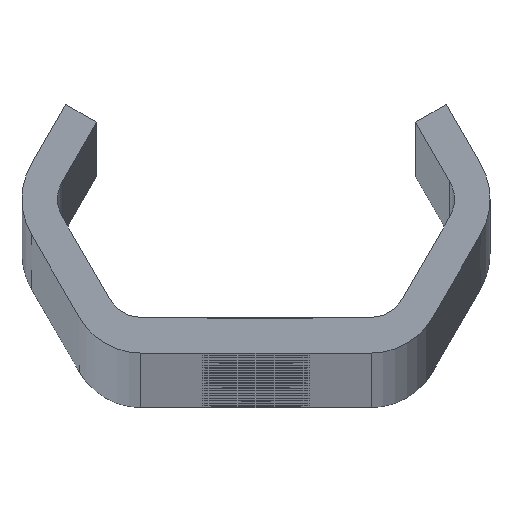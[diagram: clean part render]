
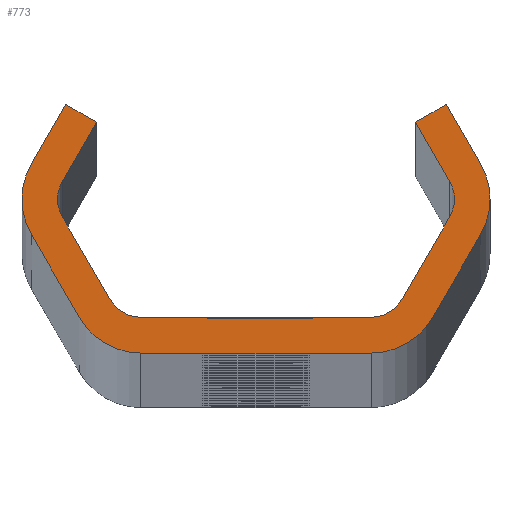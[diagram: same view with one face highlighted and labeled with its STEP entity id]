
A CAD part, top view. The second image highlights one B-rep face of the part: STEP entity #773.
In plain terms, the highlighted planar face has unit normal (0, 0, 1).
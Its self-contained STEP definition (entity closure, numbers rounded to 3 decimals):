
#773=ADVANCED_FACE('NONE',(#2155),#2156,.F.);
#2155=FACE_OUTER_BOUND('',#6992,.T.);
#2156=PLANE('',#6993);
#6992=EDGE_LOOP('',(#14294,#14295,#14296,#14297,#14298,#14299,#14300,#14301,#14302,#14303,#14304,#14305,#14306,#14307,#14308,#14309,#14310,#14311,#14312,#14313,#14314,#14315,#14316,#14317,#14318,#14319,#14320,#14321));
#6993=AXIS2_PLACEMENT_3D('',#14322,#14323,#14324);
#14294=ORIENTED_EDGE('',*,*,#19118,.F.);
#14295=ORIENTED_EDGE('',*,*,#19119,.T.);
#14296=ORIENTED_EDGE('',*,*,#18704,.T.);
#14297=ORIENTED_EDGE('',*,*,#19120,.T.);
#14298=ORIENTED_EDGE('',*,*,#19061,.T.);
#14299=ORIENTED_EDGE('',*,*,#19121,.T.);
#14300=ORIENTED_EDGE('',*,*,#18331,.T.);
#14301=ORIENTED_EDGE('',*,*,#19064,.T.);
#14302=ORIENTED_EDGE('',*,*,#19070,.T.);
#14303=ORIENTED_EDGE('',*,*,#19074,.T.);
#14304=ORIENTED_EDGE('',*,*,#19122,.T.);
#14305=ORIENTED_EDGE('',*,*,#18678,.T.);
#14306=ORIENTED_EDGE('',*,*,#19076,.T.);
#14307=ORIENTED_EDGE('',*,*,#19123,.T.);
#14308=ORIENTED_EDGE('',*,*,#19080,.T.);
#14309=ORIENTED_EDGE('',*,*,#19124,.T.);
#14310=ORIENTED_EDGE('',*,*,#18685,.T.);
#14311=ORIENTED_EDGE('',*,*,#19125,.T.);
#14312=ORIENTED_EDGE('',*,*,#18336,.T.);
#14313=ORIENTED_EDGE('',*,*,#18688,.T.);
#14314=ORIENTED_EDGE('',*,*,#18694,.T.);
#14315=ORIENTED_EDGE('',*,*,#18697,.T.);
#14316=ORIENTED_EDGE('',*,*,#18675,.T.);
#14317=ORIENTED_EDGE('',*,*,#19126,.T.);
#14318=ORIENTED_EDGE('',*,*,#18699,.T.);
#14319=ORIENTED_EDGE('',*,*,#19127,.T.);
#14320=ORIENTED_EDGE('',*,*,#18707,.T.);
#14321=ORIENTED_EDGE('',*,*,#19128,.T.);
#14322=CARTESIAN_POINT('',(0.0,0.0,2640.0));
#14323=DIRECTION('',(0.0,0.0,-1.0));
#14324=DIRECTION('',(0.0,-1.0,0.0));
#18331=EDGE_CURVE('NONE',#20421,#20425,#20427,.T.);
#18336=EDGE_CURVE('NONE',#20430,#20434,#20436,.T.);
#18675=EDGE_CURVE('NONE',#21046,#21044,#21047,.T.);
#18678=EDGE_CURVE('NONE',#21050,#21051,#21052,.T.);
#18685=EDGE_CURVE('NONE',#21064,#21062,#21065,.T.);
#18688=EDGE_CURVE('NONE',#20434,#21068,#21069,.T.);
#18694=EDGE_CURVE('NONE',#21068,#21076,#21078,.T.);
#18697=EDGE_CURVE('NONE',#21076,#21046,#21081,.T.);
#18699=EDGE_CURVE('NONE',#21083,#21084,#21085,.T.);
#18704=EDGE_CURVE('NONE',#21092,#21093,#21094,.T.);
#18707=EDGE_CURVE('NONE',#21099,#21097,#21100,.T.);
#19061=EDGE_CURVE('NONE',#21756,#21754,#21757,.T.);
#19064=EDGE_CURVE('NONE',#20425,#21760,#21761,.T.);
#19070=EDGE_CURVE('NONE',#21760,#21768,#21770,.T.);
#19074=EDGE_CURVE('NONE',#21768,#21774,#21776,.T.);
#19076=EDGE_CURVE('NONE',#21051,#21778,#21779,.T.);
#19080=EDGE_CURVE('NONE',#21784,#21785,#21786,.T.);
#19118=EDGE_CURVE('NONE',#21826,#21827,#21828,.T.);
#19119=EDGE_CURVE('NONE',#21826,#21092,#21829,.T.);
#19120=EDGE_CURVE('NONE',#21093,#21756,#21830,.T.);
#19121=EDGE_CURVE('NONE',#21754,#20421,#21831,.T.);
#19122=EDGE_CURVE('NONE',#21774,#21050,#21832,.T.);
#19123=EDGE_CURVE('NONE',#21778,#21784,#21833,.T.);
#19124=EDGE_CURVE('NONE',#21785,#21064,#21834,.T.);
#19125=EDGE_CURVE('NONE',#21062,#20430,#21835,.T.);
#19126=EDGE_CURVE('NONE',#21044,#21083,#21836,.T.);
#19127=EDGE_CURVE('NONE',#21084,#21099,#21837,.T.);
#19128=EDGE_CURVE('NONE',#21097,#21827,#21838,.T.);
#20421=VERTEX_POINT('',#23519);
#20425=VERTEX_POINT('NONE',#23524);
#20427=CIRCLE('',#23527,3.0);
#20430=VERTEX_POINT('',#23530);
#20434=VERTEX_POINT('NONE',#23535);
#20436=CIRCLE('',#23538,6.0);
#21044=VERTEX_POINT('NONE',#27186);
#21046=VERTEX_POINT('NONE',#27189);
#21047=CIRCLE('',#27190,3.0);
#21050=VERTEX_POINT('NONE',#27194);
#21051=VERTEX_POINT('NONE',#27195);
#21052=CIRCLE('',#27196,6.0);
#21062=VERTEX_POINT('NONE',#27209);
#21064=VERTEX_POINT('NONE',#27212);
#21065=LINE('',#27213,#27214);
#21068=VERTEX_POINT('NONE',#27218);
#21069=LINE('',#27219,#27220);
#21076=VERTEX_POINT('NONE',#27230);
#21078=LINE('',#27233,#27234);
#21081=LINE('',#27238,#27239);
#21083=VERTEX_POINT('NONE',#27241);
#21084=VERTEX_POINT('NONE',#27242);
#21085=LINE('',#27243,#27244);
#21092=VERTEX_POINT('NONE',#27254);
#21093=VERTEX_POINT('NONE',#27255);
#21094=LINE('',#27256,#27257);
#21097=VERTEX_POINT('NONE',#27261);
#21099=VERTEX_POINT('NONE',#27264);
#21100=LINE('',#27265,#27266);
#21754=VERTEX_POINT('NONE',#29672);
#21756=VERTEX_POINT('NONE',#29675);
#21757=LINE('',#29676,#29677);
#21760=VERTEX_POINT('NONE',#29681);
#21761=LINE('',#29682,#29683);
#21768=VERTEX_POINT('NONE',#29693);
#21770=LINE('',#29696,#29697);
#21774=VERTEX_POINT('NONE',#29702);
#21776=LINE('',#29705,#29706);
#21778=VERTEX_POINT('NONE',#29708);
#21779=LINE('',#29709,#29710);
#21784=VERTEX_POINT('NONE',#29717);
#21785=VERTEX_POINT('NONE',#29718);
#21786=LINE('',#29719,#29720);
#21826=VERTEX_POINT('NONE',#29763);
#21827=VERTEX_POINT('NONE',#29764);
#21828=LINE('',#29765,#29766);
#21829=LINE('',#29767,#29768);
#21830=CIRCLE('',#29769,3.0);
#21831=CIRCLE('',#29770,3.0);
#21832=CIRCLE('',#29771,6.0);
#21833=CIRCLE('',#29772,6.0);
#21834=CIRCLE('',#29773,6.0);
#21835=CIRCLE('',#29774,6.0);
#21836=CIRCLE('',#29775,3.0);
#21837=CIRCLE('',#29776,3.0);
#21838=LINE('',#29777,#29778);
#23519=CARTESIAN_POINT('',(-16.764,0.,2640.0));
#23524=CARTESIAN_POINT('',(-16.362,1.5,2640.0));
#23527=AXIS2_PLACEMENT_3D('',#35377,#35378,#35379);
#23530=CARTESIAN_POINT('',(19.764,0.,2640.0));
#23535=CARTESIAN_POINT('',(18.96,3.,2640.0));
#23538=AXIS2_PLACEMENT_3D('',#35385,#35386,#35387);
#27186=CARTESIAN_POINT('',(16.764,0.,2640.0));
#27189=CARTESIAN_POINT('',(16.362,1.5,2640.0));
#27190=AXIS2_PLACEMENT_3D('',#35724,#35725,#35726);
#27194=CARTESIAN_POINT('',(-19.764,0.,2640.0));
#27195=CARTESIAN_POINT('',(-18.96,-3.,2640.0));
#27196=AXIS2_PLACEMENT_3D('',#35728,#35729,#35730);
#27209=CARTESIAN_POINT('',(18.96,-3.,2640.0));
#27212=CARTESIAN_POINT('',(14.919,-10.,2640.0));
#27213=CARTESIAN_POINT('',(20.692,0.,2640.0));
#27214=VECTOR('',#35738,1000.0);
#27218=CARTESIAN_POINT('',(16.074,8.,2640.0));
#27219=CARTESIAN_POINT('',(16.074,8.,2640.0));
#27220=VECTOR('',#35740,1000.0);
#27230=CARTESIAN_POINT('',(13.475,6.5,2640.0));
#27233=CARTESIAN_POINT('',(13.475,6.5,2640.0));
#27234=VECTOR('',#35745,1000.0);
#27238=CARTESIAN_POINT('',(17.228,0.,2640.0));
#27239=VECTOR('',#35747,1000.0);
#27241=CARTESIAN_POINT('',(16.362,-1.5,2640.0));
#27242=CARTESIAN_POINT('',(12.321,-8.5,2640.0));
#27243=CARTESIAN_POINT('',(11.455,-10.0,2640.0));
#27244=VECTOR('',#35748,1000.0);
#27254=CARTESIAN_POINT('',(-4.063,-10.0,2640.0));
#27255=CARTESIAN_POINT('',(-9.723,-10.0,2640.0));
#27256=CARTESIAN_POINT('',(-11.455,-10.0,2640.0));
#27257=VECTOR('',#35752,1000.0);
#27261=CARTESIAN_POINT('',(-3.458,-10.0,2640.0));
#27264=CARTESIAN_POINT('',(9.723,-10.0,2640.0));
#27265=CARTESIAN_POINT('',(-11.455,-10.0,2640.0));
#27266=VECTOR('',#35755,1000.0);
#29672=CARTESIAN_POINT('',(-16.362,-1.5,2640.0));
#29675=CARTESIAN_POINT('',(-12.321,-8.5,2640.0));
#29676=CARTESIAN_POINT('',(-17.228,0.,2640.0));
#29677=VECTOR('',#36139,1000.0);
#29681=CARTESIAN_POINT('',(-13.475,6.5,2640.0));
#29682=CARTESIAN_POINT('',(-13.475,6.5,2640.0));
#29683=VECTOR('',#36141,1000.0);
#29693=CARTESIAN_POINT('',(-16.074,8.,2640.0));
#29696=CARTESIAN_POINT('',(-13.475,6.5,2640.0));
#29697=VECTOR('',#36146,1000.0);
#29702=CARTESIAN_POINT('',(-18.96,3.,2640.0));
#29705=CARTESIAN_POINT('',(-16.074,8.,2640.0));
#29706=VECTOR('',#36149,1000.0);
#29708=CARTESIAN_POINT('',(-14.919,-10.,2640.0));
#29709=CARTESIAN_POINT('',(-20.692,0.,2640.0));
#29710=VECTOR('',#36150,1000.0);
#29717=CARTESIAN_POINT('',(-9.723,-13.0,2640.0));
#29718=CARTESIAN_POINT('',(9.723,-13.0,2640.0));
#29719=CARTESIAN_POINT('',(-13.187,-13.0,2640.0));
#29720=VECTOR('',#36153,1000.0);
#29763=CARTESIAN_POINT('',(-4.063,-10.1,2640.0));
#29764=CARTESIAN_POINT('',(-3.458,-10.1,2640.0));
#29765=CARTESIAN_POINT('',(0.0,-10.1,2640.0));
#29766=VECTOR('',#36256,1000.0);
#29767=CARTESIAN_POINT('',(-4.063,0.,2640.0));
#29768=VECTOR('',#36257,1000.0);
#29769=AXIS2_PLACEMENT_3D('',#36258,#36259,#36260);
#29770=AXIS2_PLACEMENT_3D('',#36261,#36262,#36263);
#29771=AXIS2_PLACEMENT_3D('',#36264,#36265,#36266);
#29772=AXIS2_PLACEMENT_3D('',#36267,#36268,#36269);
#29773=AXIS2_PLACEMENT_3D('',#36270,#36271,#36272);
#29774=AXIS2_PLACEMENT_3D('',#36273,#36274,#36275);
#29775=AXIS2_PLACEMENT_3D('',#36276,#36277,#36278);
#29776=AXIS2_PLACEMENT_3D('',#36279,#36280,#36281);
#29777=CARTESIAN_POINT('',(-3.458,0.,2640.0));
#29778=VECTOR('',#36282,1000.0);
#35377=CARTESIAN_POINT('',(-13.764,0.,2640.0));
#35378=DIRECTION('',(0.0,0.0,-1.0));
#35379=DIRECTION('',(-1.0,0.0,0.0));
#35385=CARTESIAN_POINT('',(13.764,0.,2640.0));
#35386=DIRECTION('',(0.0,0.0,1.0));
#35387=DIRECTION('',(-1.0,0.0,0.0));
#35724=CARTESIAN_POINT('',(13.764,0.,2640.0));
#35725=DIRECTION('',(0.0,0.0,-1.0));
#35726=DIRECTION('',(-1.0,0.0,0.0));
#35728=CARTESIAN_POINT('',(-13.764,0.,2640.0));
#35729=DIRECTION('',(0.0,0.0,1.0));
#35730=DIRECTION('',(-1.0,0.0,0.0));
#35738=DIRECTION('',(0.5,0.866,-0.0));
#35740=DIRECTION('',(-0.5,0.866,-0.0));
#35745=DIRECTION('',(-0.866,-0.5,-0.0));
#35747=DIRECTION('',(0.5,-0.866,-0.0));
#35748=DIRECTION('',(-0.5,-0.866,-0.0));
#35752=DIRECTION('',(-1.0,0.,-0.0));
#35755=DIRECTION('',(-1.0,0.,-0.0));
#36139=DIRECTION('',(-0.5,0.866,-0.0));
#36141=DIRECTION('',(0.5,0.866,-0.0));
#36146=DIRECTION('',(-0.866,0.5,0.0));
#36149=DIRECTION('',(-0.5,-0.866,0.0));
#36150=DIRECTION('',(0.5,-0.866,0.0));
#36153=DIRECTION('',(1.0,0.0,0.0));
#36256=DIRECTION('',(1.0,0.0,0.0));
#36257=DIRECTION('',(0.,1.0,0.0));
#36258=CARTESIAN_POINT('',(-9.723,-7.0,2640.0));
#36259=DIRECTION('',(0.0,0.0,-1.0));
#36260=DIRECTION('',(-1.0,0.0,0.0));
#36261=CARTESIAN_POINT('',(-13.764,0.,2640.0));
#36262=DIRECTION('',(0.0,0.0,-1.0));
#36263=DIRECTION('',(-1.0,0.0,0.0));
#36264=CARTESIAN_POINT('',(-13.764,0.,2640.0));
#36265=DIRECTION('',(0.0,0.0,1.0));
#36266=DIRECTION('',(-1.0,0.,0.0));
#36267=CARTESIAN_POINT('',(-9.723,-7.0,2640.0));
#36268=DIRECTION('',(0.0,0.0,1.0));
#36269=DIRECTION('',(-1.0,0.0,0.0));
#36270=CARTESIAN_POINT('',(9.723,-7.0,2640.0));
#36271=DIRECTION('',(0.0,0.0,1.0));
#36272=DIRECTION('',(-1.0,0.,0.0));
#36273=CARTESIAN_POINT('',(13.764,0.,2640.0));
#36274=DIRECTION('',(0.0,0.0,1.0));
#36275=DIRECTION('',(-1.0,0.0,0.0));
#36276=CARTESIAN_POINT('',(13.764,0.,2640.0));
#36277=DIRECTION('',(0.0,0.0,-1.0));
#36278=DIRECTION('',(-1.0,0.0,0.0));
#36279=CARTESIAN_POINT('',(9.723,-7.0,2640.0));
#36280=DIRECTION('',(0.0,0.0,-1.0));
#36281=DIRECTION('',(-1.0,0.0,0.0));
#36282=DIRECTION('',(0.,-1.0,0.0));
